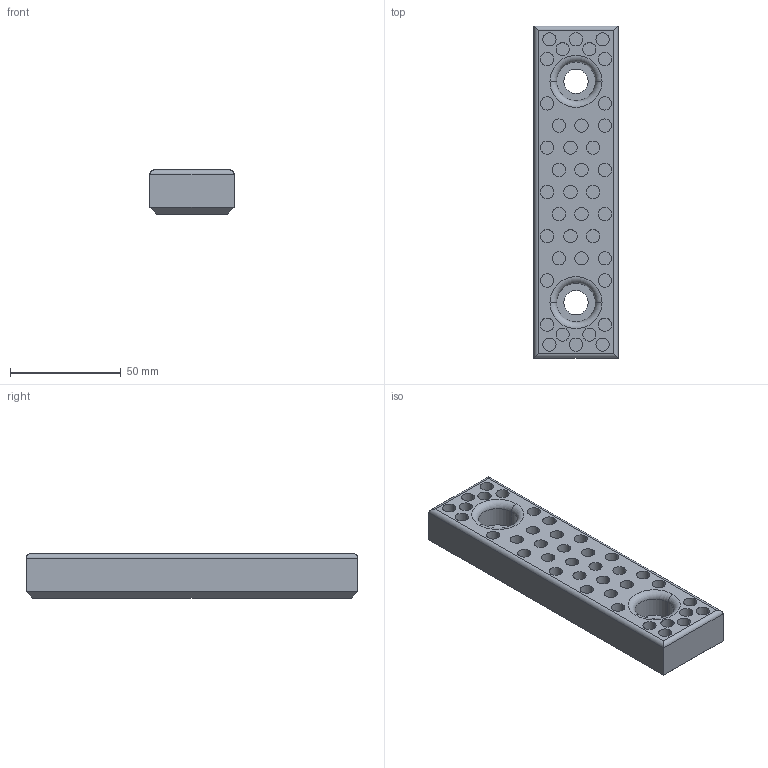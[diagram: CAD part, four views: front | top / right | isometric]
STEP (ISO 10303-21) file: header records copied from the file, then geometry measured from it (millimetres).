
FILE_DESCRIPTION (( 'STEP AP214' ), '1' );
FILE_NAME ('SW224-02-38x150.STEP', '2020-10-19T07:35:47', ( 'August' ), ( '' ), 'SwSTEP 2.0', 'SolidWorks 2018', '' );
FILE_SCHEMA (( 'AUTOMOTIVE_DESIGN' ));
Length unit declared in the file: millimetre
Products named in the file (1): SW224-02-38x150
Bounding box: 38 x 150 x 20 mm (x, y, z)
Volume: 97004.4 mm3; surface area: 24276.9 mm2
Topology: 1 solids, 1 shells, 145 faces, 294 edges, 192 vertices
Faces by surface type: cylinder 90, plane 51, torus 4
Entity records: 4390 total; most frequent: CARTESIAN_POINT 816, DIRECTION 758, ORIENTED_EDGE 588, AXIS2_PLACEMENT_3D 326, EDGE_CURVE 294, VERTEX_POINT 192, EDGE_LOOP 190, CIRCLE 180
